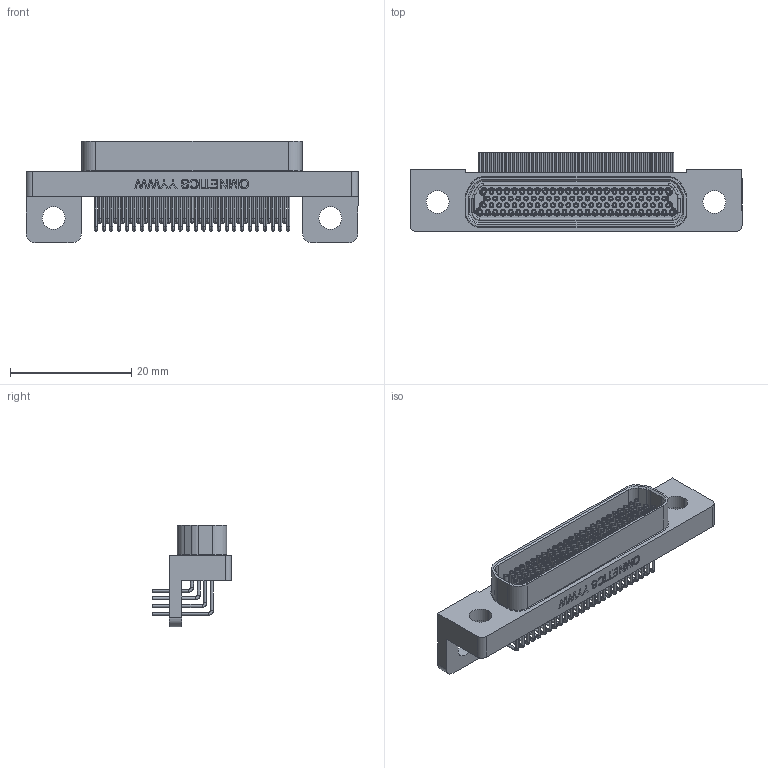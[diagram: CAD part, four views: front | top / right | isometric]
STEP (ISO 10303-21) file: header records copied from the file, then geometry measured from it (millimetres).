
FILE_DESCRIPTION (( 'STEP AP214' ), '1' );
FILE_NAME ('A99089-100 REV B.STEP', '2018-05-29T18:36:01', ( '' ), ( '' ), 'SwSTEP 2.0', 'SolidWorks 2017', '' );
FILE_SCHEMA (( 'AUTOMOTIVE_DESIGN' ));
Length unit declared in the file: inch
Products named in the file (1): A99089-100 REV 1
Bounding box: 54.86 x 13.12 x 16.76 mm (x, y, z)
Volume: 3047.9 mm3; surface area: 6905.3 mm2
Topology: 1 solids, 102 shells, 2470 faces, 5286 edges, 3332 vertices
Faces by surface type: cylinder 1394, plane 687, torus 329, bspline 54, cone 6
Entity records: 70731 total; most frequent: CARTESIAN_POINT 14259, DIRECTION 13251, ORIENTED_EDGE 10560, AXIS2_PLACEMENT_3D 5664, EDGE_CURVE 5280, VERTEX_POINT 3332, CIRCLE 3247, EDGE_LOOP 2998
